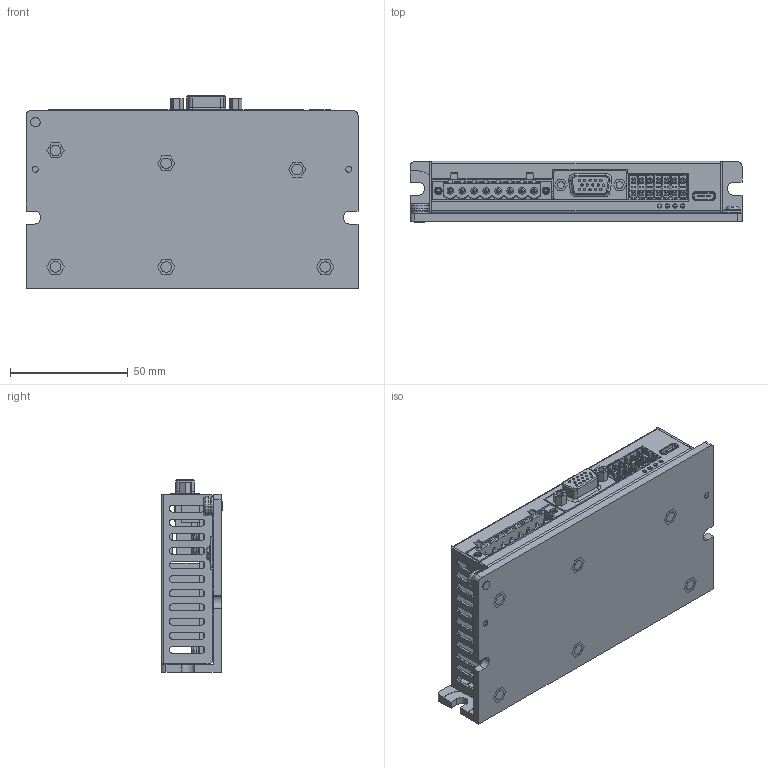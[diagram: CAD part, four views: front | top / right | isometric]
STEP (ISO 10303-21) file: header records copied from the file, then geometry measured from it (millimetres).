
FILE_DESCRIPTION((''),'2;1');
FILE_NAME('000-FD125_ASM','2023-11-28T15:58:35',('RD0058'),(''),'CREO PARAMETRIC BY PTC INC, 2016510','CREO PARAMETRIC BY PTC INC, 2016510','');
FILE_SCHEMA(('CONFIG_CONTROL_DESIGN','SHAPE_APPEARANCE_LAYERS_GROUPS'));
Products named in the file (17): PCB; F8A-8-5_08-08P-5; CON_NETWORK_PORT; 9ZHEN-DAOLISHI_2; BOMA_4; C165948_TYPE-C; F8CR-THR-3_5-14P-A-L28; PCB-ASM_ASM; HT-WU; BSO-M3X7; HT-WU_ASM; FD125-HS; THERMAL_FD125; SCREW_JIEZI_M3X4; SCREW_M3X6; SCREW_M4X6; 000-FD125_ASM
Assembly tree (27 placements, depth 3):
  000-FD125_ASM
    PCB-ASM_ASM
      PCB
      F8A-8-5_08-08P-5
      CON_NETWORK_PORT
      9ZHEN-DAOLISHI_2
      BOMA_4
      C165948_TYPE-C
      F8CR-THR-3_5-14P-A-L28
    HT-WU_ASM
      HT-WU
      BSO-M3X7  x6
    FD125-HS
    THERMAL_FD125
    SCREW_JIEZI_M3X4  x2
    SCREW_M3X6  x6
    SCREW_M4X6
Bounding box: 141 x 26.1 x 81.7 mm (x, y, z)
Volume: 99490.3 mm3; surface area: 99677.6 mm2
Topology: 25 solids, 39 shells, 3436 faces, 8892 edges, 5704 vertices
Faces by surface type: plane 2183, cylinder 909, bspline 180, torus 90, cone 46, extrusion 28
Entity records: 115269 total; most frequent: CARTESIAN_POINT 21846, ORIENTED_EDGE 15220, DIRECTION 14054, EDGE_CURVE 7610, PRESENTATION_STYLE_ASSIGNMENT 7145, STYLED_ITEM 7121, CURVE_STYLE 7108, VECTOR 5694
